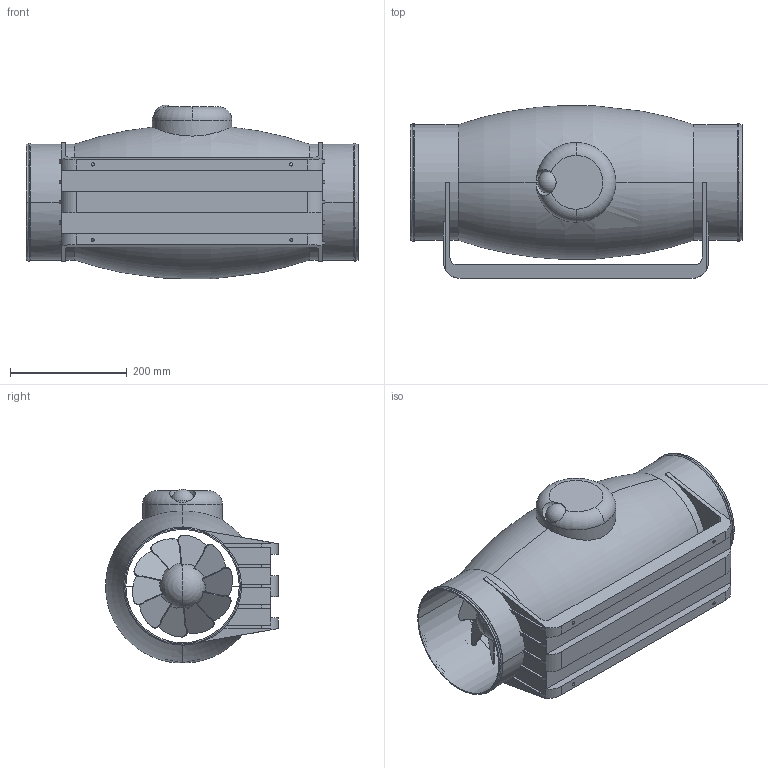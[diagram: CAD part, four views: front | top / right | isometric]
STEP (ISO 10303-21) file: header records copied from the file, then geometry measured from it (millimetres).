
FILE_DESCRIPTION(('STEP AP214'),'1');
FILE_NAME('fan_5211360700.stp','2017-10-10T11:56:49',('TraceParts'),('TraceParts S.A.'),'Spatial InterOp 3D',' ',' ');
FILE_SCHEMA(('automotive_design'));
Length unit declared in the file: millimetre
Products named in the file (1): fan_5211360700
Bounding box: 568 x 295.6 x 296.99 mm (x, y, z)
Volume: 5010207 mm3; surface area: 1145283.9 mm2
Topology: 2 solids, 2 shells, 183 faces, 530 edges, 350 vertices
Faces by surface type: plane 104, cylinder 54, torus 14, sphere 7, cone 4
Entity records: 8008 total; most frequent: CARTESIAN_POINT 1447, DIRECTION 1158, ORIENTED_EDGE 1056, EDGE_CURVE 528, AXIS2_PLACEMENT_3D 461, VERTEX_POINT 350, LINE 236, VECTOR 236
